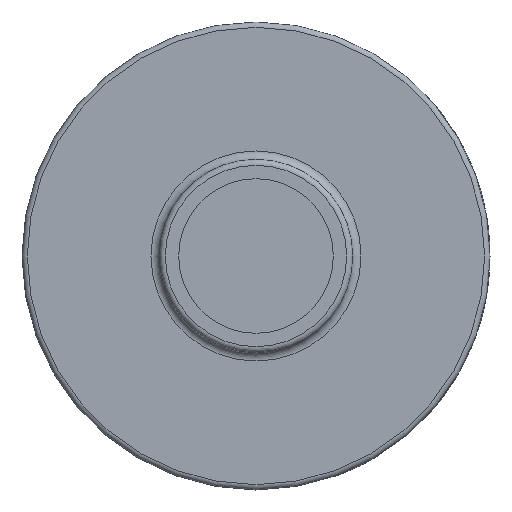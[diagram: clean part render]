
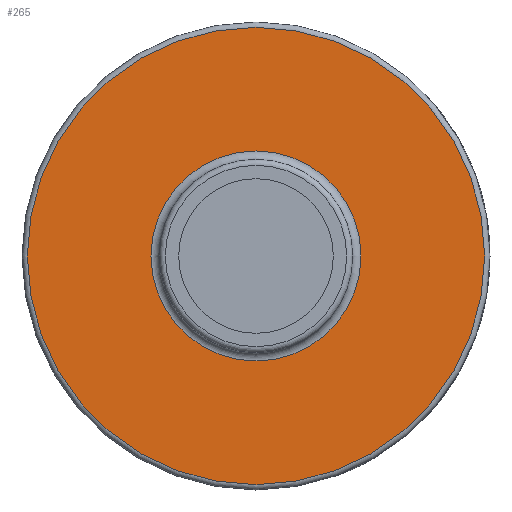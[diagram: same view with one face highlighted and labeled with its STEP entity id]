
A CAD part, left-side view. The second image highlights one B-rep face of the part: STEP entity #265.
In plain terms, the highlighted planar face has unit normal (-1, 0, 0).
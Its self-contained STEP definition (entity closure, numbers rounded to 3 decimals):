
#265 = ADVANCED_FACE( '', ( #727, #728 ), #729, .T. );
#727 = FACE_OUTER_BOUND( '', #1438, .T. );
#728 = FACE_BOUND( '', #1439, .T. );
#729 = PLANE( '', #1440 );
#1438 = EDGE_LOOP( '', ( #3182 ) );
#1439 = EDGE_LOOP( '', ( #3183 ) );
#1440 = AXIS2_PLACEMENT_3D( '', #3184, #3185, #3186 );
#3182 = ORIENTED_EDGE( '', *, *, #4930, .T. );
#3183 = ORIENTED_EDGE( '', *, *, #4904, .F. );
#3184 = CARTESIAN_POINT( '', ( 10.643, 0., 10.001 ) );
#3185 = DIRECTION( '', ( -1., 0., 0. ) );
#3186 = DIRECTION( '', ( 0., 0., 1. ) );
#4904 = EDGE_CURVE( '', #5675, #5675, #5676, .T. );
#4930 = EDGE_CURVE( '', #5720, #5720, #5721, .T. );
#5675 = VERTEX_POINT( '', #6898 );
#5676 = CIRCLE( '', #6899, 10.001 );
#5720 = VERTEX_POINT( '', #7030 );
#5721 = CIRCLE( '', #7031, 21.781 );
#6898 = CARTESIAN_POINT( '', ( 10.643, 0., 10.001 ) );
#6899 = AXIS2_PLACEMENT_3D( '', #9234, #9235, #9236 );
#7030 = CARTESIAN_POINT( '', ( 10.643, 0., 21.781 ) );
#7031 = AXIS2_PLACEMENT_3D( '', #9240, #9241, #9242 );
#9234 = CARTESIAN_POINT( '', ( 10.643, 0., 0. ) );
#9235 = DIRECTION( '', ( -1., 0., 0. ) );
#9236 = DIRECTION( '', ( 0., 0., 1. ) );
#9240 = CARTESIAN_POINT( '', ( 10.643, 0., 0. ) );
#9241 = DIRECTION( '', ( -1., 0., 0. ) );
#9242 = DIRECTION( '', ( 0., 0., 1. ) );
